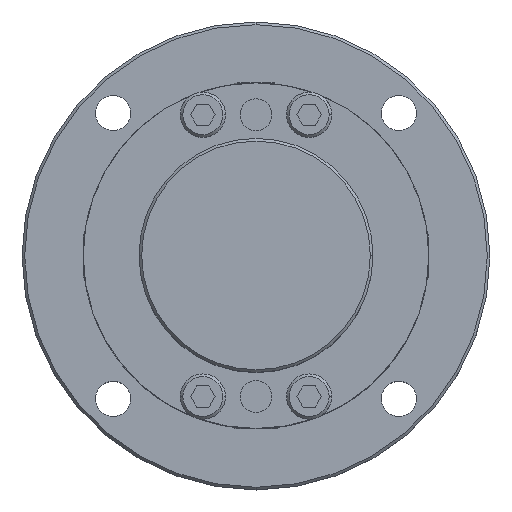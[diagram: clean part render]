
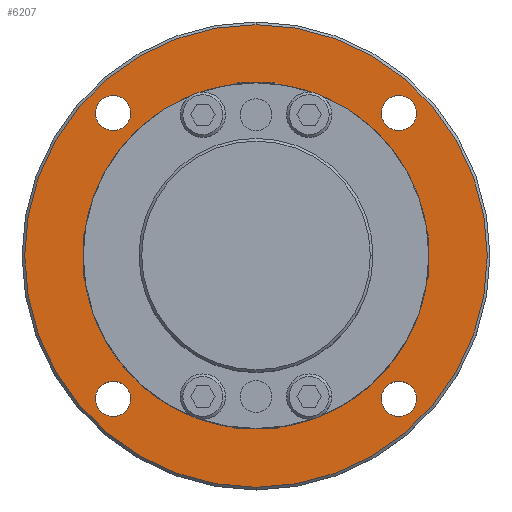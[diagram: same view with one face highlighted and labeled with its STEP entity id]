
A CAD part, top view. The second image highlights one B-rep face of the part: STEP entity #6207.
In plain terms, the highlighted planar face has unit normal (0, 0, 1).
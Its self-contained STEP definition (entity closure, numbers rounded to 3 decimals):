
#1193=CARTESIAN_POINT('',(0.,32.5,-14.));
#1194=VERTEX_POINT('',#1193);
#1203=CARTESIAN_POINT('',(0.,-32.5,-14.));
#1204=VERTEX_POINT('',#1203);
#1205=CARTESIAN_POINT('',(0.0,0.0,-14.));
#1206=DIRECTION('',(0.0,0.0,-1.0));
#1207=DIRECTION('',(0.0,1.0,0.0));
#1208=AXIS2_PLACEMENT_3D('',#1205,#1206,#1207);
#1209=CIRCLE('',#1208,32.5);
#1210=EDGE_CURVE('',#1204,#1194,#1209,.T.);
#1285=CARTESIAN_POINT('',(-26.87,30.17,-14.));
#1286=VERTEX_POINT('',#1285);
#1295=CARTESIAN_POINT('',(-26.87,23.57,-14.));
#1296=VERTEX_POINT('',#1295);
#1297=CARTESIAN_POINT('',(-26.87,26.87,-14.));
#1298=DIRECTION('',(0.0,0.0,-1.0));
#1299=DIRECTION('',(0.0,1.0,0.0));
#1300=AXIS2_PLACEMENT_3D('',#1297,#1298,#1299);
#1301=CIRCLE('',#1300,3.3);
#1302=EDGE_CURVE('',#1296,#1286,#1301,.T.);
#1327=CARTESIAN_POINT('',(-26.87,-23.57,-14.));
#1328=VERTEX_POINT('',#1327);
#1337=CARTESIAN_POINT('',(-26.87,-30.17,-14.));
#1338=VERTEX_POINT('',#1337);
#1339=CARTESIAN_POINT('',(-26.87,-26.87,-14.));
#1340=DIRECTION('',(0.0,0.0,-1.0));
#1341=DIRECTION('',(0.0,1.0,0.0));
#1342=AXIS2_PLACEMENT_3D('',#1339,#1340,#1341);
#1343=CIRCLE('',#1342,3.3);
#1344=EDGE_CURVE('',#1338,#1328,#1343,.T.);
#1369=CARTESIAN_POINT('',(26.87,-23.57,-14.));
#1370=VERTEX_POINT('',#1369);
#1379=CARTESIAN_POINT('',(26.87,-30.17,-14.));
#1380=VERTEX_POINT('',#1379);
#1381=CARTESIAN_POINT('',(26.87,-26.87,-14.));
#1382=DIRECTION('',(0.0,0.0,-1.0));
#1383=DIRECTION('',(0.0,1.0,0.0));
#1384=AXIS2_PLACEMENT_3D('',#1381,#1382,#1383);
#1385=CIRCLE('',#1384,3.3);
#1386=EDGE_CURVE('',#1380,#1370,#1385,.T.);
#1411=CARTESIAN_POINT('',(26.87,30.17,-14.));
#1412=VERTEX_POINT('',#1411);
#1421=CARTESIAN_POINT('',(26.87,23.57,-14.));
#1422=VERTEX_POINT('',#1421);
#1423=CARTESIAN_POINT('',(26.87,26.87,-14.));
#1424=DIRECTION('',(0.0,0.0,-1.0));
#1425=DIRECTION('',(0.0,1.0,0.0));
#1426=AXIS2_PLACEMENT_3D('',#1423,#1424,#1425);
#1427=CIRCLE('',#1426,3.3);
#1428=EDGE_CURVE('',#1422,#1412,#1427,.T.);
#1663=CARTESIAN_POINT('',(0.,-43.5,-14.));
#1664=VERTEX_POINT('',#1663);
#1673=CARTESIAN_POINT('',(0.,43.5,-14.));
#1674=VERTEX_POINT('',#1673);
#1675=CARTESIAN_POINT('',(0.0,0.0,-14.));
#1676=DIRECTION('',(0.0,0.0,-1.0));
#1677=DIRECTION('',(0.0,-1.0,0.0));
#1678=AXIS2_PLACEMENT_3D('',#1675,#1676,#1677);
#1679=CIRCLE('',#1678,43.5);
#1680=EDGE_CURVE('',#1664,#1674,#1679,.T.);
#6138=CARTESIAN_POINT('',(0.0,0.0,-14.));
#6139=DIRECTION('',(0.0,0.0,-1.0));
#6140=DIRECTION('',(0.0,-1.0,0.0));
#6141=AXIS2_PLACEMENT_3D('',#6138,#6139,#6140);
#6142=CIRCLE('',#6141,43.5);
#6143=EDGE_CURVE('',#1674,#1664,#6142,.T.);
#6148=CARTESIAN_POINT('',(0.,4.,-14.));
#6149=DIRECTION('',(0.0,0.0,1.0));
#6150=DIRECTION('',(0.0,1.0,0.0));
#6151=AXIS2_PLACEMENT_3D('',#6148,#6149,#6150);
#6152=PLANE('',#6151);
#6153=ORIENTED_EDGE('',*,*,#6143,.F.);
#6154=ORIENTED_EDGE('',*,*,#1680,.F.);
#6155=EDGE_LOOP('',(#6153,#6154));
#6156=FACE_OUTER_BOUND('',#6155,.T.);
#6157=ORIENTED_EDGE('',*,*,#1210,.T.);
#6158=CARTESIAN_POINT('',(0.0,0.0,-14.));
#6159=DIRECTION('',(0.0,0.0,-1.0));
#6160=DIRECTION('',(0.0,1.0,0.0));
#6161=AXIS2_PLACEMENT_3D('',#6158,#6159,#6160);
#6162=CIRCLE('',#6161,32.5);
#6163=EDGE_CURVE('',#1194,#1204,#6162,.T.);
#6164=ORIENTED_EDGE('',*,*,#6163,.T.);
#6165=EDGE_LOOP('',(#6157,#6164));
#6166=FACE_BOUND('',#6165,.T.);
#6167=ORIENTED_EDGE('',*,*,#1302,.T.);
#6168=CARTESIAN_POINT('',(-26.87,26.87,-14.));
#6169=DIRECTION('',(0.0,0.0,-1.0));
#6170=DIRECTION('',(0.0,1.0,0.0));
#6171=AXIS2_PLACEMENT_3D('',#6168,#6169,#6170);
#6172=CIRCLE('',#6171,3.3);
#6173=EDGE_CURVE('',#1286,#1296,#6172,.T.);
#6174=ORIENTED_EDGE('',*,*,#6173,.T.);
#6175=EDGE_LOOP('',(#6167,#6174));
#6176=FACE_BOUND('',#6175,.T.);
#6177=ORIENTED_EDGE('',*,*,#1344,.T.);
#6178=CARTESIAN_POINT('',(-26.87,-26.87,-14.));
#6179=DIRECTION('',(0.0,0.0,-1.0));
#6180=DIRECTION('',(0.0,1.0,0.0));
#6181=AXIS2_PLACEMENT_3D('',#6178,#6179,#6180);
#6182=CIRCLE('',#6181,3.3);
#6183=EDGE_CURVE('',#1328,#1338,#6182,.T.);
#6184=ORIENTED_EDGE('',*,*,#6183,.T.);
#6185=EDGE_LOOP('',(#6177,#6184));
#6186=FACE_BOUND('',#6185,.T.);
#6187=ORIENTED_EDGE('',*,*,#1386,.T.);
#6188=CARTESIAN_POINT('',(26.87,-26.87,-14.));
#6189=DIRECTION('',(0.0,0.0,-1.0));
#6190=DIRECTION('',(0.0,1.0,0.0));
#6191=AXIS2_PLACEMENT_3D('',#6188,#6189,#6190);
#6192=CIRCLE('',#6191,3.3);
#6193=EDGE_CURVE('',#1370,#1380,#6192,.T.);
#6194=ORIENTED_EDGE('',*,*,#6193,.T.);
#6195=EDGE_LOOP('',(#6187,#6194));
#6196=FACE_BOUND('',#6195,.T.);
#6197=ORIENTED_EDGE('',*,*,#1428,.T.);
#6198=CARTESIAN_POINT('',(26.87,26.87,-14.));
#6199=DIRECTION('',(0.0,0.0,-1.0));
#6200=DIRECTION('',(0.0,1.0,0.0));
#6201=AXIS2_PLACEMENT_3D('',#6198,#6199,#6200);
#6202=CIRCLE('',#6201,3.3);
#6203=EDGE_CURVE('',#1412,#1422,#6202,.T.);
#6204=ORIENTED_EDGE('',*,*,#6203,.T.);
#6205=EDGE_LOOP('',(#6197,#6204));
#6206=FACE_BOUND('',#6205,.T.);
#6207=ADVANCED_FACE('',(#6156,#6166,#6176,#6186,#6196,#6206),#6152,.T.);
